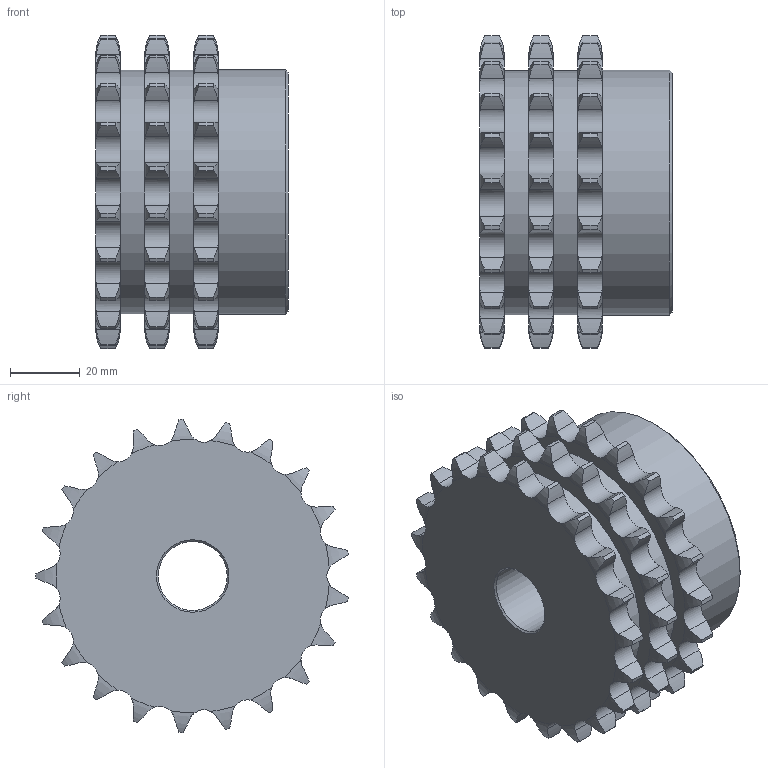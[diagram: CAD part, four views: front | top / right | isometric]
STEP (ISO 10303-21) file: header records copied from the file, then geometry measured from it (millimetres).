
FILE_DESCRIPTION(/* description */ (''),/* implementation_level */ '2;1');
FILE_NAME(/* name */ 'C:\Users\stagistaCAD\Desktop\10312021.stp',/* time_stamp */ '2018-06-22T10:28:31+02:00',/* author */ ('stagistacad'),/* organization */ (''),/* preprocessor_version */ 'ST-DEVELOPER v15.6',/* originating_system */ 'Autodesk Inventor 2015',/* authorisation */ '');
FILE_SCHEMA (('AUTOMOTIVE_DESIGN { 1 0 10303 214 3 1 1 }'));
Length unit declared in the file: millimetre
Products named in the file (1): 10312021
Bounding box: 55 x 89.28 x 89.53 mm (x, y, z)
Volume: 221954.2 mm3; surface area: 33747.2 mm2
Topology: 1 solids, 1 shells, 392 faces, 1152 edges, 767 vertices
Faces by surface type: cylinder 256, torus 126, plane 7, cone 3
Full cylindrical faces by diameter (mm): 19.7 x1, 69.7 x2, 70 x1
Entity records: 14634 total; most frequent: CARTESIAN_POINT 4813, ORIENTED_EDGE 2290, DIRECTION 1816, EDGE_CURVE 1145, AXIS2_PLACEMENT_3D 782, VERTEX_POINT 767, B_SPLINE_CURVE_WITH_KNOTS 504, EDGE_LOOP 406
